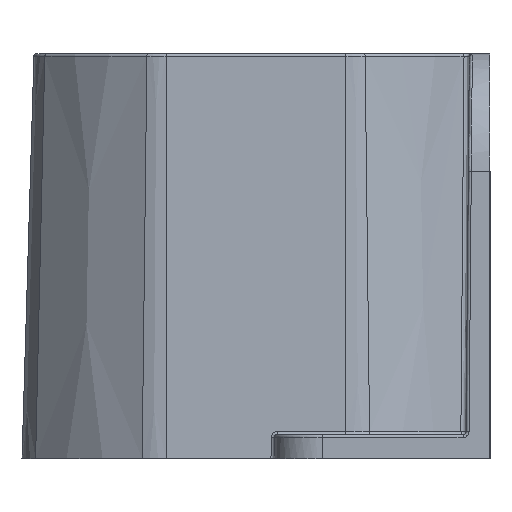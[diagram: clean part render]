
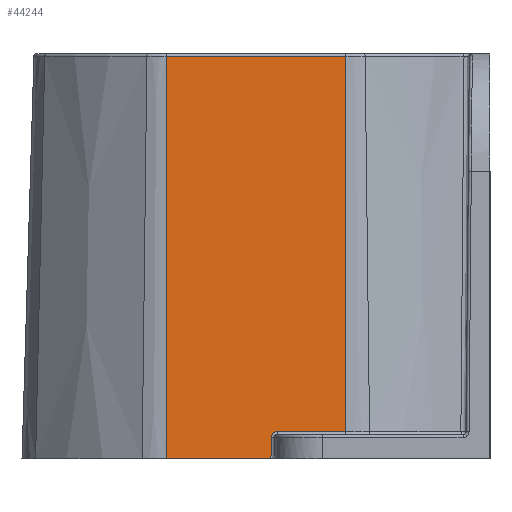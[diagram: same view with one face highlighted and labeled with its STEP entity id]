
A CAD part, left-side view. The second image highlights one B-rep face of the part: STEP entity #44244.
In plain terms, the highlighted planar face has unit normal (-1, 0, 0.03).
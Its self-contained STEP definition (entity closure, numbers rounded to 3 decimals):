
#44198=AXIS2_PLACEMENT_3D('Plane Axis2P3D',#44195,#44196,#44197) ;
#22064=CARTESIAN_POINT('Vertex',(22.37,54.782,-0.783)) ;
#22088=CARTESIAN_POINT('Vertex',(22.37,24.818,-0.783)) ;
#22091=CARTESIAN_POINT('Line Origine',(22.37,39.8,-0.783)) ;
#43177=CARTESIAN_POINT('Vertex',(20.385,37.308,-67.797)) ;
#43180=CARTESIAN_POINT('Line Origine',(20.385,46.045,-67.797)) ;
#43184=CARTESIAN_POINT('Vertex',(20.385,54.782,-67.797)) ;
#44183=CARTESIAN_POINT('Line Origine',(-14781.931,54.782,-499645.963)) ;
#44195=CARTESIAN_POINT('Axis2P3D Location',(22.385,39.8,-0.297)) ;
#44200=CARTESIAN_POINT('Line Origine',(20.436,37.277,-66.046)) ;
#44204=CARTESIAN_POINT('Vertex',(20.488,37.247,-64.295)) ;
#44208=CARTESIAN_POINT('Control Point',(20.488,37.247,-64.295)) ;
#44209=CARTESIAN_POINT('Control Point',(20.493,37.244,-64.147)) ;
#44210=CARTESIAN_POINT('Control Point',(20.497,37.215,-64.)) ;
#44211=CARTESIAN_POINT('Control Point',(20.501,37.158,-63.86)) ;
#44212=CARTESIAN_POINT('Control Point',(20.509,36.997,-63.608)) ;
#44213=CARTESIAN_POINT('Control Point',(20.514,36.756,-63.428)) ;
#44214=CARTESIAN_POINT('Control Point',(20.516,36.621,-63.362)) ;
#44215=CARTESIAN_POINT('Control Point',(20.517,36.458,-63.317)) ;
#44216=CARTESIAN_POINT('Control Point',(20.518,36.293,-63.306)) ;
#44217=CARTESIAN_POINT('Control Point',(20.518,36.275,-63.305)) ;
#44218=CARTESIAN_POINT('Control Point',(20.518,36.257,-63.305)) ;
#44219=CARTESIAN_POINT('Control Point',(20.518,36.239,-63.305)) ;
#44220=CARTESIAN_POINT('Vertex',(20.518,36.239,-63.305)) ;
#44223=CARTESIAN_POINT('Line Origine',(20.518,30.528,-63.305)) ;
#44227=CARTESIAN_POINT('Vertex',(20.518,24.818,-63.305)) ;
#44230=CARTESIAN_POINT('Line Origine',(21.444,24.818,-32.044)) ;
#22092=DIRECTION('Vector Direction',(0.,1.,0.)) ;
#43181=DIRECTION('Vector Direction',(0.,-1.,0.)) ;
#44184=DIRECTION('Vector Direction',(-0.03,0.,-1.)) ;
#44196=DIRECTION('Axis2P3D Direction',(1.,0.,-0.03)) ;
#44197=DIRECTION('Axis2P3D XDirection',(0.,-1.,0.)) ;
#44201=DIRECTION('Vector Direction',(0.03,-0.017,0.999)) ;
#44224=DIRECTION('Vector Direction',(0.,-1.,0.)) ;
#44231=DIRECTION('Vector Direction',(0.03,0.,1.)) ;
#22093=VECTOR('Line Direction',#22092,1.) ;
#43182=VECTOR('Line Direction',#43181,1.) ;
#44185=VECTOR('Line Direction',#44184,1.) ;
#44202=VECTOR('Line Direction',#44201,1.) ;
#44225=VECTOR('Line Direction',#44224,1.) ;
#44232=VECTOR('Line Direction',#44231,1.) ;
#44236=ORIENTED_EDGE('',*,*,#44187,.F.) ;
#44237=ORIENTED_EDGE('',*,*,#43186,.T.) ;
#44238=ORIENTED_EDGE('',*,*,#44206,.T.) ;
#44239=ORIENTED_EDGE('',*,*,#44222,.T.) ;
#44240=ORIENTED_EDGE('',*,*,#44229,.T.) ;
#44241=ORIENTED_EDGE('',*,*,#44234,.T.) ;
#44242=ORIENTED_EDGE('',*,*,#22095,.T.) ;
#44244=ADVANCED_FACE('Warner_DT',(#44243),#44199,.F.) ;
#44207=B_SPLINE_CURVE_WITH_KNOTS('',5,(#44208,#44209,#44210,#44211,#44212,#44213,#44214,#44215,#44216,#44217,#44218,#44219),.UNSPECIFIED.,.F.,.U.,(6,3,3,6),(0.,1.278,2.556,2.713),.UNSPECIFIED.) ;
#22095=EDGE_CURVE('',#22089,#22065,#22094,.T.) ;
#43186=EDGE_CURVE('',#43185,#43178,#43183,.T.) ;
#44187=EDGE_CURVE('',#43185,#22065,#44186,.F.) ;
#44206=EDGE_CURVE('',#43178,#44205,#44203,.T.) ;
#44222=EDGE_CURVE('',#44205,#44221,#44207,.T.) ;
#44229=EDGE_CURVE('',#44221,#44228,#44226,.T.) ;
#44234=EDGE_CURVE('',#44228,#22089,#44233,.T.) ;
#44235=EDGE_LOOP('',(#44236,#44237,#44238,#44239,#44240,#44241,#44242)) ;
#44243=FACE_OUTER_BOUND('',#44235,.T.) ;
#22094=LINE('Line',#22091,#22093) ;
#43183=LINE('Line',#43180,#43182) ;
#44186=LINE('Line',#44183,#44185) ;
#44203=LINE('Line',#44200,#44202) ;
#44226=LINE('Line',#44223,#44225) ;
#44233=LINE('Line',#44230,#44232) ;
#44199=PLANE('',#44198) ;
#22065=VERTEX_POINT('',#22064) ;
#22089=VERTEX_POINT('',#22088) ;
#43178=VERTEX_POINT('',#43177) ;
#43185=VERTEX_POINT('',#43184) ;
#44205=VERTEX_POINT('',#44204) ;
#44221=VERTEX_POINT('',#44220) ;
#44228=VERTEX_POINT('',#44227) ;
